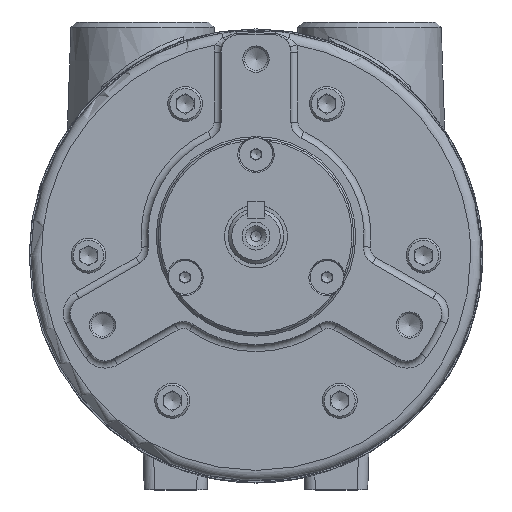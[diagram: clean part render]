
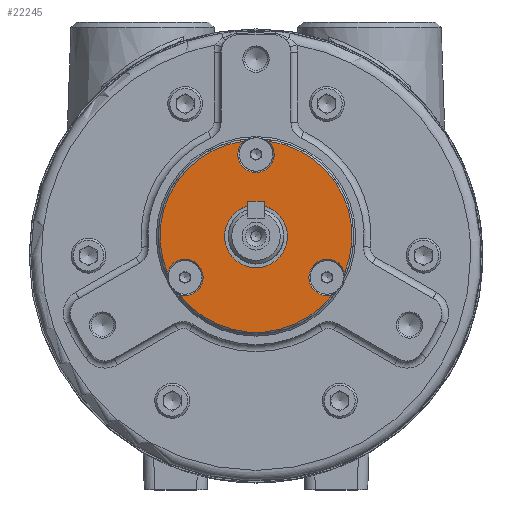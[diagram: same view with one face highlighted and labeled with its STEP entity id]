
A CAD part, top view. The second image highlights one B-rep face of the part: STEP entity #22245.
In plain terms, the highlighted planar face has unit normal (0, 0, 1).
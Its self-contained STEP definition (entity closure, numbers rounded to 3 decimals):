
#1332 = VERTEX_POINT ( 'NONE', #5255 ) ;
#2005 = EDGE_CURVE ( 'NONE', #1332, #1332, #18716, .T. ) ;
#2095 = AXIS2_PLACEMENT_3D ( 'NONE', #17687, #25573, #23493 ) ;
#2368 = PLANE ( 'NONE',  #24058 ) ;
#2453 = ORIENTED_EDGE ( 'NONE', *, *, #19461, .F. ) ;
#3530 = CIRCLE ( 'NONE', #14360, 5.2 ) ;
#3535 = DIRECTION ( 'NONE',  ( 1., 0., 0. ) ) ;
#3763 = AXIS2_PLACEMENT_3D ( 'NONE', #4267, #10230, #13646 ) ;
#4120 = EDGE_CURVE ( 'NONE', #5344, #19506, #6293, .T. ) ;
#4267 = CARTESIAN_POINT ( 'NONE',  ( 0., 5.501, 70.36 ) ) ;
#4534 = EDGE_LOOP ( 'NONE', ( #2453, #10118, #7944, #5380, #18224, #6289 ) ) ;
#4718 = DIRECTION ( 'NONE',  ( 0., 0., -1. ) ) ;
#5255 = CARTESIAN_POINT ( 'NONE',  ( -9., 5.501, 70.36 ) ) ;
#5305 = DIRECTION ( 'NONE',  ( 0., 0., -1. ) ) ;
#5344 = VERTEX_POINT ( 'NONE', #13777 ) ;
#5380 = ORIENTED_EDGE ( 'NONE', *, *, #7912, .F. ) ;
#5428 = CARTESIAN_POINT ( 'NONE',  ( 0., 5.501, 70.36 ) ) ;
#6289 = ORIENTED_EDGE ( 'NONE', *, *, #13038, .F. ) ;
#6293 = CIRCLE ( 'NONE', #7545, 5.2 ) ;
#6360 = CIRCLE ( 'NONE', #8439, 27.5 ) ;
#6377 = CARTESIAN_POINT ( 'NONE',  ( -3.587, 32.766, 70.36 ) ) ;
#6653 = CARTESIAN_POINT ( 'NONE',  ( 0., 5.501, 70.36 ) ) ;
#7356 = CARTESIAN_POINT ( 'NONE',  ( -20.352, -6.249, 70.36 ) ) ;
#7545 = AXIS2_PLACEMENT_3D ( 'NONE', #7356, #19318, #25508 ) ;
#7912 = EDGE_CURVE ( 'NONE', #24719, #12544, #3530, .T. ) ;
#7944 = ORIENTED_EDGE ( 'NONE', *, *, #18213, .F. ) ;
#8219 = FACE_OUTER_BOUND ( 'NONE', #4534, .T. ) ;
#8437 = AXIS2_PLACEMENT_3D ( 'NONE', #6653, #4718, #20685 ) ;
#8439 = AXIS2_PLACEMENT_3D ( 'NONE', #5428, #5305, #9435 ) ;
#9435 = DIRECTION ( 'NONE',  ( -1., 0., 0. ) ) ;
#10118 = ORIENTED_EDGE ( 'NONE', *, *, #4120, .F. ) ;
#10194 = CARTESIAN_POINT ( 'NONE',  ( 20.352, -6.249, 70.36 ) ) ;
#10230 = DIRECTION ( 'NONE',  ( 0., 0., -1. ) ) ;
#10302 = DIRECTION ( 'NONE',  ( 1., 0., 0. ) ) ;
#10438 = DIRECTION ( 'NONE',  ( 0., 0., 1. ) ) ;
#11132 = CARTESIAN_POINT ( 'NONE',  ( 25.406, -5.025, 70.36 ) ) ;
#11177 = CIRCLE ( 'NONE', #3763, 27.5 ) ;
#12272 = DIRECTION ( 'NONE',  ( 0., 0., -1. ) ) ;
#12544 = VERTEX_POINT ( 'NONE', #13681 ) ;
#13038 = EDGE_CURVE ( 'NONE', #22599, #14171, #22299, .T. ) ;
#13287 = CARTESIAN_POINT ( 'NONE',  ( 0., 29.001, 70.36 ) ) ;
#13331 = EDGE_LOOP ( 'NONE', ( #14887 ) ) ;
#13646 = DIRECTION ( 'NONE',  ( -1., 0., 0. ) ) ;
#13681 = CARTESIAN_POINT ( 'NONE',  ( 21.819, -11.237, 70.36 ) ) ;
#13777 = CARTESIAN_POINT ( 'NONE',  ( -21.819, -11.237, 70.36 ) ) ;
#14171 = VERTEX_POINT ( 'NONE', #17442 ) ;
#14360 = AXIS2_PLACEMENT_3D ( 'NONE', #10194, #10438, #10302 ) ;
#14626 = FACE_BOUND ( 'NONE', #13331, .T. ) ;
#14887 = ORIENTED_EDGE ( 'NONE', *, *, #2005, .F. ) ;
#17442 = CARTESIAN_POINT ( 'NONE',  ( 3.587, 32.766, 70.36 ) ) ;
#17687 = CARTESIAN_POINT ( 'NONE',  ( 0., 5.501, 70.36 ) ) ;
#18213 = EDGE_CURVE ( 'NONE', #12544, #5344, #6360, .T. ) ;
#18224 = ORIENTED_EDGE ( 'NONE', *, *, #20906, .F. ) ;
#18716 = CIRCLE ( 'NONE', #2095, 9. ) ;
#19318 = DIRECTION ( 'NONE',  ( 0., 0., 1. ) ) ;
#19461 = EDGE_CURVE ( 'NONE', #19506, #22599, #19641, .T. ) ;
#19506 = VERTEX_POINT ( 'NONE', #23124 ) ;
#19641 = CIRCLE ( 'NONE', #8437, 27.5 ) ;
#20222 = AXIS2_PLACEMENT_3D ( 'NONE', #13287, #21203, #3535 ) ;
#20685 = DIRECTION ( 'NONE',  ( -1., 0., 0. ) ) ;
#20906 = EDGE_CURVE ( 'NONE', #14171, #24719, #11177, .T. ) ;
#21203 = DIRECTION ( 'NONE',  ( 0., 0., 1. ) ) ;
#22245 = ADVANCED_FACE ( 'NONE', ( #8219, #14626 ), #2368, .F. ) ;
#22299 = CIRCLE ( 'NONE', #20222, 5.2 ) ;
#22500 = DIRECTION ( 'NONE',  ( -1., 0., 0. ) ) ;
#22599 = VERTEX_POINT ( 'NONE', #6377 ) ;
#23124 = CARTESIAN_POINT ( 'NONE',  ( -25.406, -5.025, 70.36 ) ) ;
#23493 = DIRECTION ( 'NONE',  ( -1., 0., 0. ) ) ;
#24058 = AXIS2_PLACEMENT_3D ( 'NONE', #24179, #12272, #22500 ) ;
#24179 = CARTESIAN_POINT ( 'NONE',  ( 0., 14.501, 70.36 ) ) ;
#24719 = VERTEX_POINT ( 'NONE', #11132 ) ;
#25508 = DIRECTION ( 'NONE',  ( 1., 0., 0. ) ) ;
#25573 = DIRECTION ( 'NONE',  ( 0., 0., 1. ) ) ;
